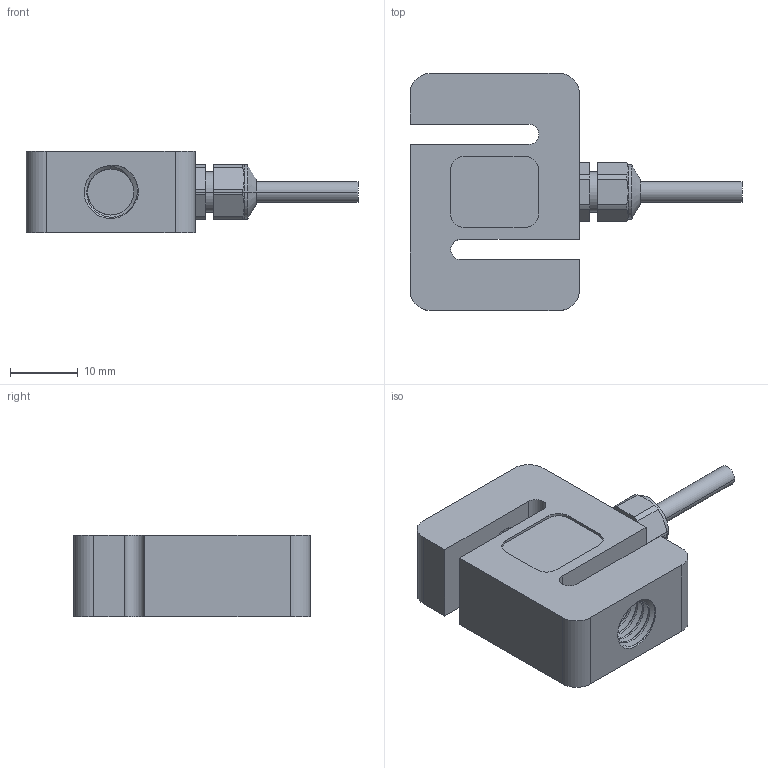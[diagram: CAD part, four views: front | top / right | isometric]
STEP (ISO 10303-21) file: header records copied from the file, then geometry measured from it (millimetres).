
FILE_DESCRIPTION (( 'STEP AP203' ), '1' );
FILE_NAME ('LCS05.STEP', '2024-11-28T08:19:30', ( '' ), ( '' ), 'SwSTEP 2.0', 'SolidWorks 2019', '' );
FILE_SCHEMA (( 'CONFIG_CONTROL_DESIGN' ));
Length unit declared in the file: millimetre
Products named in the file (1): LCS05
Bounding box: 49 x 35 x 12 mm (x, y, z)
Volume: 8844.4 mm3; surface area: 4709 mm2
Topology: 3 solids, 3 shells, 125 faces, 328 edges, 213 vertices
Faces by surface type: cylinder 61, plane 42, cone 8, torus 8, bspline 6
Entity records: 7684 total; most frequent: CARTESIAN_POINT 4655, ORIENTED_EDGE 656, DIRECTION 587, EDGE_CURVE 328, AXIS2_PLACEMENT_3D 215, VERTEX_POINT 213, VECTOR 157, LINE 157
